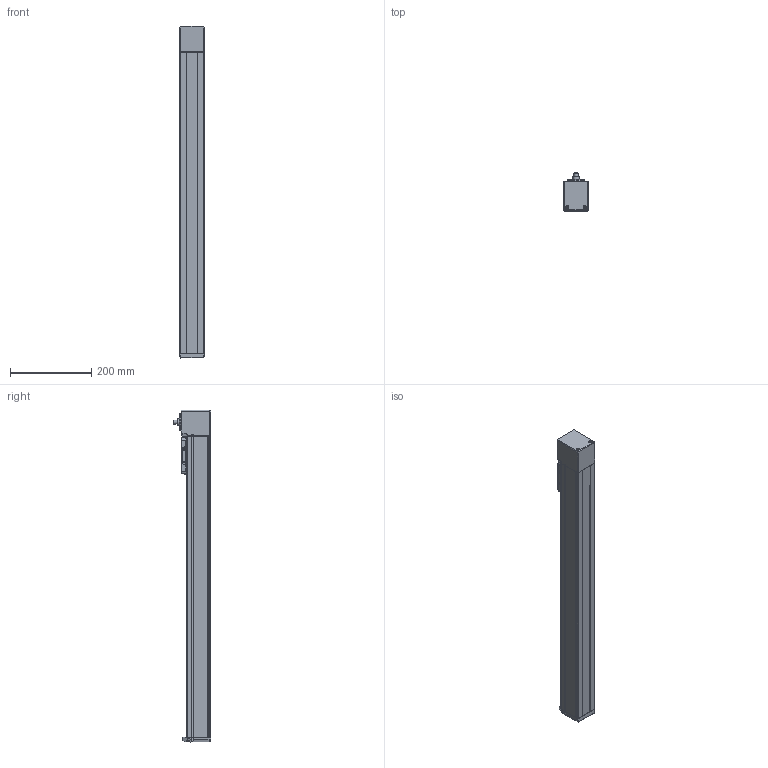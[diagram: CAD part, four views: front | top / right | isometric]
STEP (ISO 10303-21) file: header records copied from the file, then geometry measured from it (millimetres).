
FILE_DESCRIPTION(/* description */ ('STEP AP214'),/* implementation_level */ '2;1');
FILE_NAME(/* name */ 'MGTB 60 600(0)',/* time_stamp */ '2023-04-17T13:40:20+02:00',/* author */ ('License CC BY-ND 4.0'),/* organization */ ('CADENAS'),/* preprocessor_version */ 'ST-DEVELOPER v19.3',/* originating_system */ 'PARTsolutions',/* authorisation */ ' ');
FILE_SCHEMA (('AUTOMOTIVE_DESIGN {1 0 10303 214 3 1 1}'));
Length unit declared in the file: millimetre
Products named in the file (6): MGTB 60 600(0); MGTB 60 600_protection_strip; MGTB 60_carriage; MGTB 60_end_block; MGTB 60 600_profile; MGTB 60_drive_block
Assembly tree (5 placements, depth 2):
  MGTB 60 600(0)
    MGTB 60 600_protection_strip
    MGTB 60_carriage
    MGTB 60_end_block
    MGTB 60 600_profile
    MGTB 60_drive_block
Bounding box: 60 x 92.5 x 815.01 mm (x, y, z)
Volume: 2909405.8 mm3; surface area: 348472 mm2
Topology: 5 solids, 5 shells, 696 faces, 1771 edges, 1140 vertices
Faces by surface type: plane 351, cylinder 156, cone 94, bspline 68, torus 25, sphere 2
Full cylindrical faces by diameter (mm): 2 x1, 2.459 x4, 3.242 x6, 4 x12, 4.134 x8, 4.2 x2, 4.8 x2, 5 x2, 5.5 x4, 7 x6, 8 x4, 10 x1, 11 x3, 16 x1, 17 x1, 30 x1, 35 x1, 42 x2
Entity records: 25037 total; most frequent: CARTESIAN_POINT 4184, DIRECTION 3411, ORIENTED_EDGE 3232, EDGE_CURVE 1616, AXIS2_PLACEMENT_3D 1219, VERTEX_POINT 1120, LINE 973, VECTOR 973
